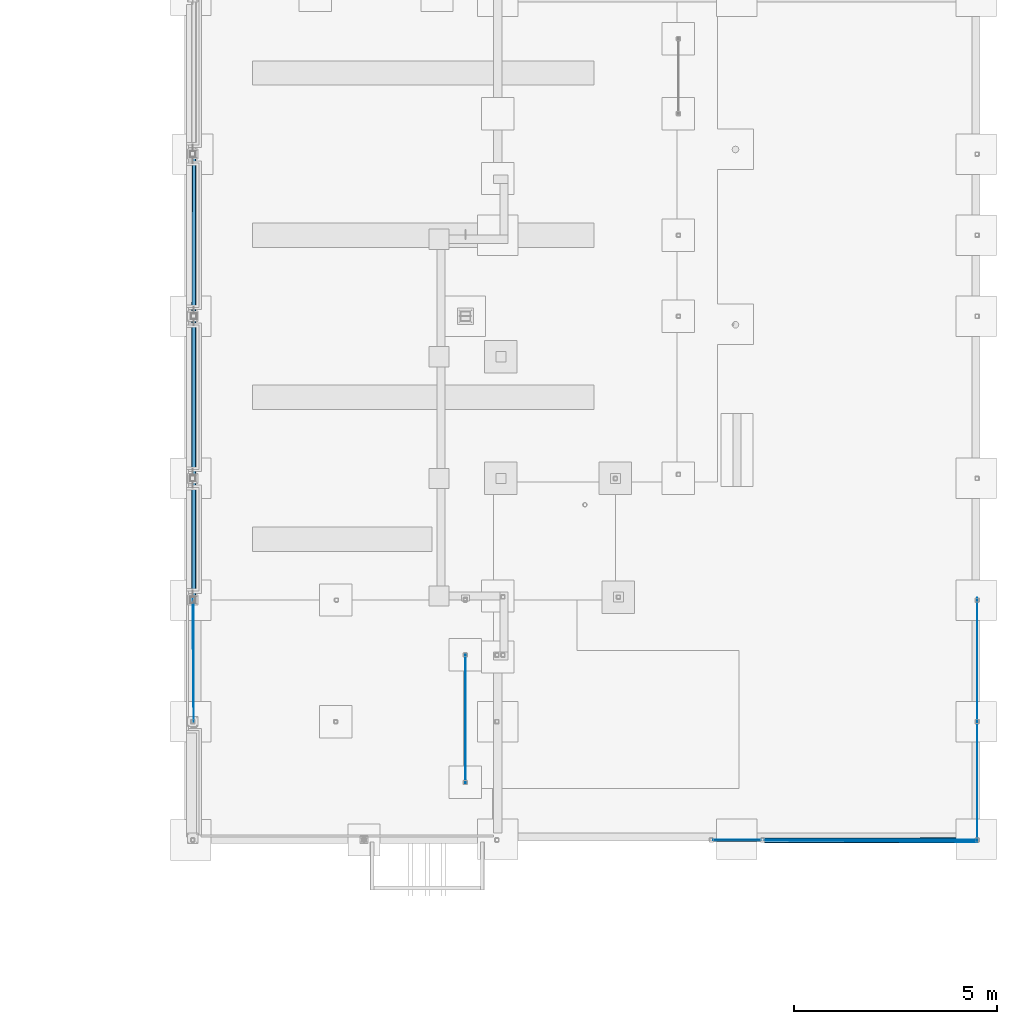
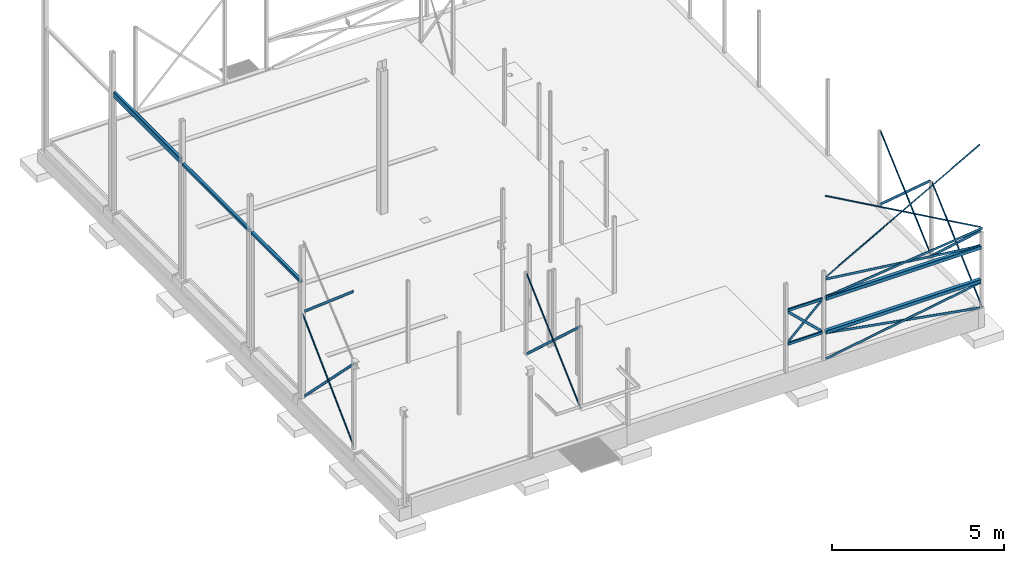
# One storey, part 7 of 18: 24 beams.
"""IFC2X3 building model written with IfcOpenShell, lengths in millimetres."""

from ifc_helpers import new_model, entity, si_unit, converted_unit, derived_unit, direction, frame, frame_2d, origin, place, context, subcontext, project, spatial, polyline, circle_curve, parameter, trimmed, segment, composite_curve, rectangle, outline, extrude, clip, halfspace, material, type_object, element, save


model = new_model("IFC2X3")

# Units and contexts
model_context = context("Model", 3, precision=0.01, world=origin(), true_north=direction((6.12303176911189e-17, 1.0)))
body_context = subcontext(model_context, "Body", "Model", "MODEL_VIEW")
ifc_project = project(units=[si_unit("LENGTHUNIT", "METRE", prefix="MILLI"), si_unit("AREAUNIT", "SQUARE_METRE"), si_unit("VOLUMEUNIT", "CUBIC_METRE"), converted_unit("PLANEANGLEUNIT", "DEGREE", entity("IfcRatioMeasure", 0.0174532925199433), si_unit("PLANEANGLEUNIT", "RADIAN"), dimensions=[0, 0, 0, 0, 0, 0, 0]), si_unit("MASSUNIT", "GRAM", prefix="KILO"), derived_unit("MASSDENSITYUNIT", [(si_unit("MASSUNIT", "GRAM", prefix="KILO"), 1), (si_unit("LENGTHUNIT", "METRE"), -3)]), si_unit("TIMEUNIT", "SECOND"), si_unit("FREQUENCYUNIT", "HERTZ"), si_unit("THERMODYNAMICTEMPERATUREUNIT", "DEGREE_CELSIUS"), derived_unit("THERMALTRANSMITTANCEUNIT", [(si_unit("MASSUNIT", "GRAM", prefix="KILO"), 1), (si_unit("THERMODYNAMICTEMPERATUREUNIT", "KELVIN"), -1), (si_unit("TIMEUNIT", "SECOND"), -3)]), derived_unit("VOLUMETRICFLOWRATEUNIT", [(si_unit("LENGTHUNIT", "METRE"), 3), (si_unit("TIMEUNIT", "SECOND"), -1)]), si_unit("ELECTRICCURRENTUNIT", "AMPERE"), si_unit("ELECTRICVOLTAGEUNIT", "VOLT"), si_unit("POWERUNIT", "WATT"), si_unit("FORCEUNIT", "NEWTON", prefix="KILO"), si_unit("ILLUMINANCEUNIT", "LUX"), si_unit("LUMINOUSFLUXUNIT", "LUMEN"), si_unit("LUMINOUSINTENSITYUNIT", "CANDELA"), derived_unit("USERDEFINED", [(si_unit("MASSUNIT", "GRAM", prefix="KILO"), -1), (si_unit("LENGTHUNIT", "METRE"), -2), (si_unit("TIMEUNIT", "SECOND"), 3), (si_unit("LUMINOUSFLUXUNIT", "LUMEN"), 1)]), derived_unit("LINEARVELOCITYUNIT", [(si_unit("LENGTHUNIT", "METRE"), 1), (si_unit("TIMEUNIT", "SECOND"), -1)]), si_unit("PRESSUREUNIT", "PASCAL"), derived_unit("USERDEFINED", [(si_unit("LENGTHUNIT", "METRE"), -2), (si_unit("MASSUNIT", "GRAM", prefix="KILO"), 1), (si_unit("TIMEUNIT", "SECOND"), -2)])], contexts=[model_context])

# Site, building, storey
site_placement = place(None, frame((0.0, 0.0, 101000.0)))
site = spatial("IfcSite", under=ifc_project, at=site_placement, Name="Default", CompositionType="ELEMENT")
building_placement = place(site_placement, origin())
building = spatial("IfcBuilding", under=site, at=building_placement, CompositionType="ELEMENT")
storey_placement = place(building_placement, origin())
storey = spatial("IfcBuildingStorey", under=building, at=storey_placement, Name="01", CompositionType="ELEMENT", Elevation=8.9295595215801e-10)

# Beams
ifc_material_1 = material(Name="S355")
beam_type_1 = type_object("IfcBeamType", Name="Bjelke HUP:HUP 100x50x5", PredefinedType="BEAM")
beam_1_placement = place(storey_placement, frame((16557.3191703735, 23487.8756540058, 1045.0)))
element("IfcBeam", 1, at=beam_1_placement, inside=storey, type_object=beam_type_1, material=ifc_material_1, Name="Bjelke HUP:HUP 100x50x5", ObjectType="Bjelke HUP:HUP 100x50x5", context=body_context, shape_type="SweptSolid", body=[
    extrude(outline(composite_curve([segment(trimmed(circle_curve(frame_2d((-15.0, -40.0), x_axis=(1.0, 0.0)), 10.0), [parameter(180.0)], [parameter(270.0)], True, "PARAMETER"), True, "CONTINUOUS"), segment(polyline([(-15.0, -50.0), (15.0, -50.0)]), True, "CONTINUOUS"), segment(trimmed(circle_curve(frame_2d((15.0, -40.0), x_axis=(1.0, 0.0)), 10.0), [parameter(270.0)], [parameter(1.01777749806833e-13)], True, "PARAMETER"), True, "CONTINUOUS"), segment(polyline([(25.0, -40.0), (25.0, 40.0)]), True, "CONTINUOUS"), segment(trimmed(circle_curve(frame_2d((15.0, 40.0), x_axis=(1.0, 0.0)), 10.0), [parameter(360.0)], [parameter(89.9999999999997)], True, "PARAMETER"), True, "CONTINUOUS"), segment(polyline([(15.0, 50.0), (-15.0, 50.0)]), True, "CONTINUOUS"), segment(trimmed(circle_curve(frame_2d((-15.0, 40.0), x_axis=(1.0, 0.0)), 10.0), [parameter(90.0000000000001)], [parameter(180.0)], True, "PARAMETER"), True, "CONTINUOUS"), segment(polyline([(-25.0, 40.0), (-25.0, -40.0)]), True, "CONTINUOUS")], self_intersect=False), holes=[composite_curve([segment(polyline([(15.0, -45.0), (-15.0, -45.0)]), True, "CONTINUOUS"), segment(trimmed(circle_curve(frame_2d((-15.0, -40.0), x_axis=(1.0, 0.0)), 5.0), [parameter(180.0)], [parameter(270.0)], True, "PARAMETER"), False, "CONTINUOUS"), segment(polyline([(-20.0, -40.0), (-20.0, 40.0)]), True, "CONTINUOUS"), segment(trimmed(circle_curve(frame_2d((-15.0, 40.0), x_axis=(1.0, 0.0)), 5.0), [parameter(90.0000000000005)], [parameter(180.0)], True, "PARAMETER"), False, "CONTINUOUS"), segment(polyline([(-15.0, 45.0), (15.0, 45.0)]), True, "CONTINUOUS"), segment(trimmed(circle_curve(frame_2d((15.0, 40.0), x_axis=(1.0, 0.0)), 5.0), [parameter(0.0)], [parameter(90.0000000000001)], True, "PARAMETER"), False, "CONTINUOUS"), segment(polyline([(20.0, 40.0), (20.0, -40.0)]), True, "CONTINUOUS"), segment(trimmed(circle_curve(frame_2d((15.0, -40.0), x_axis=(1.0, 0.0)), 5.0), [parameter(270.0)], [parameter(3.05333249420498e-13)], True, "PARAMETER"), False, "CONTINUOUS")], self_intersect=False)]), frame((47.9710376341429, 0.0, -50.0), z_axis=(1.0, 0.0, 0.0), x_axis=(0.0, -1.0, 0.0)), (0.0, 0.0, 1.0), 1161.94875565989),
])
beam_2_placement = place(storey_placement, frame((16557.3191703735, 23487.8756540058, 2235.0)))
element("IfcBeam", 2, at=beam_2_placement, inside=storey, type_object=beam_type_1, material=ifc_material_1, Name="Bjelke HUP:HUP 100x50x5", ObjectType="Bjelke HUP:HUP 100x50x5", context=body_context, shape_type="SweptSolid", body=[
    extrude(outline(composite_curve([segment(trimmed(circle_curve(frame_2d((-15.0, -40.0), x_axis=(1.0, 0.0)), 10.0), [parameter(180.0)], [parameter(270.0)], True, "PARAMETER"), True, "CONTINUOUS"), segment(polyline([(-15.0, -50.0), (15.0, -50.0)]), True, "CONTINUOUS"), segment(trimmed(circle_curve(frame_2d((15.0, -40.0), x_axis=(1.0, 0.0)), 10.0), [parameter(270.0)], [parameter(1.01777749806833e-13)], True, "PARAMETER"), True, "CONTINUOUS"), segment(polyline([(25.0, -40.0), (25.0, 40.0)]), True, "CONTINUOUS"), segment(trimmed(circle_curve(frame_2d((15.0, 40.0), x_axis=(1.0, 0.0)), 10.0), [parameter(360.0)], [parameter(89.9999999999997)], True, "PARAMETER"), True, "CONTINUOUS"), segment(polyline([(15.0, 50.0), (-15.0, 50.0)]), True, "CONTINUOUS"), segment(trimmed(circle_curve(frame_2d((-15.0, 40.0), x_axis=(1.0, 0.0)), 10.0), [parameter(90.0000000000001)], [parameter(180.0)], True, "PARAMETER"), True, "CONTINUOUS"), segment(polyline([(-25.0, 40.0), (-25.0, -40.0)]), True, "CONTINUOUS")], self_intersect=False), holes=[composite_curve([segment(polyline([(15.0, -45.0), (-15.0, -45.0)]), True, "CONTINUOUS"), segment(trimmed(circle_curve(frame_2d((-15.0, -40.0), x_axis=(1.0, 0.0)), 5.0), [parameter(180.0)], [parameter(270.0)], True, "PARAMETER"), False, "CONTINUOUS"), segment(polyline([(-20.0, -40.0), (-20.0, 40.0)]), True, "CONTINUOUS"), segment(trimmed(circle_curve(frame_2d((-15.0, 40.0), x_axis=(1.0, 0.0)), 5.0), [parameter(90.0000000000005)], [parameter(180.0)], True, "PARAMETER"), False, "CONTINUOUS"), segment(polyline([(-15.0, 45.0), (15.0, 45.0)]), True, "CONTINUOUS"), segment(trimmed(circle_curve(frame_2d((15.0, 40.0), x_axis=(1.0, 0.0)), 5.0), [parameter(0.0)], [parameter(90.0000000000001)], True, "PARAMETER"), False, "CONTINUOUS"), segment(polyline([(20.0, 40.0), (20.0, -40.0)]), True, "CONTINUOUS"), segment(trimmed(circle_curve(frame_2d((15.0, -40.0), x_axis=(1.0, 0.0)), 5.0), [parameter(270.0)], [parameter(3.05333249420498e-13)], True, "PARAMETER"), False, "CONTINUOUS")], self_intersect=False)]), frame((47.9710376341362, 0.0, -50.0), z_axis=(1.0, 0.0, 0.0), x_axis=(0.0, -1.0, 0.0)), (0.0, 0.0, 1.0), 1161.94875565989),
])
beam_type_2 = type_object("IfcBeamType", Name="Bjelke HUP:HUP 120x120x5", PredefinedType="BEAM")
beam_3_placement = place(storey_placement, frame((17805.5082167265, 23487.8756540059, 2235.0)))
element("IfcBeam", 3, at=beam_3_placement, inside=storey, type_object=beam_type_2, material=ifc_material_1, Name="Bjelke HUP:HUP 120x120x5", ObjectType="Bjelke HUP:HUP 120x120x5", context=body_context, shape_type="SweptSolid", body=[
    extrude(outline(composite_curve([segment(trimmed(circle_curve(frame_2d((-50.0, -50.0), x_axis=(1.0, 0.0)), 10.0), [parameter(180.0)], [parameter(269.999999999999)], True, "PARAMETER"), True, "CONTINUOUS"), segment(polyline([(-50.0, -60.0), (50.0, -60.0)]), True, "CONTINUOUS"), segment(trimmed(circle_curve(frame_2d((50.0, -50.0), x_axis=(1.0, 0.0)), 10.0), [parameter(270.0)], [parameter(5.08888749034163e-14)], True, "PARAMETER"), True, "CONTINUOUS"), segment(polyline([(60.0, -50.0), (60.0, 50.0)]), True, "CONTINUOUS"), segment(trimmed(circle_curve(frame_2d((50.0, 50.0), x_axis=(1.0, 0.0)), 10.0), [parameter(360.0)], [parameter(89.9999999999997)], True, "PARAMETER"), True, "CONTINUOUS"), segment(polyline([(50.0, 60.0), (-50.0, 60.0)]), True, "CONTINUOUS"), segment(trimmed(circle_curve(frame_2d((-50.0, 50.0), x_axis=(1.0, 0.0)), 10.0), [parameter(90.0000000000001)], [parameter(180.0)], True, "PARAMETER"), True, "CONTINUOUS"), segment(polyline([(-60.0, 50.0), (-60.0, -50.0)]), True, "CONTINUOUS")], self_intersect=False), holes=[composite_curve([segment(polyline([(50.0, -55.0), (-50.0, -55.0)]), True, "CONTINUOUS"), segment(trimmed(circle_curve(frame_2d((-50.0, -50.0), x_axis=(1.0, 0.0)), 5.0), [parameter(180.0)], [parameter(270.0)], True, "PARAMETER"), False, "CONTINUOUS"), segment(polyline([(-55.0, -50.0), (-55.0, 50.0)]), True, "CONTINUOUS"), segment(trimmed(circle_curve(frame_2d((-50.0, 50.0), x_axis=(1.0, 0.0)), 5.0), [parameter(90.0000000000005)], [parameter(180.0)], True, "PARAMETER"), False, "CONTINUOUS"), segment(polyline([(-50.0, 55.0), (50.0, 55.0)]), True, "CONTINUOUS"), segment(trimmed(circle_curve(frame_2d((50.0, 50.0), x_axis=(1.0, 0.0)), 5.0), [parameter(0.0)], [parameter(90.0000000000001)], True, "PARAMETER"), False, "CONTINUOUS"), segment(polyline([(55.0, 50.0), (55.0, -50.0)]), True, "CONTINUOUS"), segment(trimmed(circle_curve(frame_2d((50.0, -50.0), x_axis=(1.0, 0.0)), 5.0), [parameter(270.0)], [parameter(3.05333249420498e-13)], True, "PARAMETER"), False, "CONTINUOUS")], self_intersect=False)]), frame((61.7307469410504, 0.0, -60.0), z_axis=(1.0, 0.0, 0.0), x_axis=(0.0, -1.0, 0.0)), (0.0, 0.0, 1.0), 5194.02553270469),
])
beam_4_placement = place(storey_placement, frame((17805.5082167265, 23487.8756540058, 1045.0), z_axis=(0.0, 0.0, 1.0), x_axis=(0.999998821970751, 0.0015349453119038, 0.0)))
element("IfcBeam", 4, at=beam_4_placement, inside=storey, type_object=beam_type_2, material=ifc_material_1, Name="Bjelke HUP:HUP 120x120x5", ObjectType="Bjelke HUP:HUP 120x120x5", context=body_context, shape_type="SweptSolid", body=[
    extrude(outline(composite_curve([segment(trimmed(circle_curve(frame_2d((-50.0, -50.0), x_axis=(1.0, 0.0)), 10.0), [parameter(180.0)], [parameter(269.999999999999)], True, "PARAMETER"), True, "CONTINUOUS"), segment(polyline([(-50.0, -60.0), (50.0, -60.0)]), True, "CONTINUOUS"), segment(trimmed(circle_curve(frame_2d((50.0, -50.0), x_axis=(1.0, 0.0)), 10.0), [parameter(270.0)], [parameter(5.08888749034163e-14)], True, "PARAMETER"), True, "CONTINUOUS"), segment(polyline([(60.0, -50.0), (60.0, 50.0)]), True, "CONTINUOUS"), segment(trimmed(circle_curve(frame_2d((50.0, 50.0), x_axis=(1.0, 0.0)), 10.0), [parameter(360.0)], [parameter(89.9999999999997)], True, "PARAMETER"), True, "CONTINUOUS"), segment(polyline([(50.0, 60.0), (-50.0, 60.0)]), True, "CONTINUOUS"), segment(trimmed(circle_curve(frame_2d((-50.0, 50.0), x_axis=(1.0, 0.0)), 10.0), [parameter(90.0000000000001)], [parameter(180.0)], True, "PARAMETER"), True, "CONTINUOUS"), segment(polyline([(-60.0, 50.0), (-60.0, -50.0)]), True, "CONTINUOUS")], self_intersect=False), holes=[composite_curve([segment(polyline([(50.0, -55.0), (-50.0, -55.0)]), True, "CONTINUOUS"), segment(trimmed(circle_curve(frame_2d((-50.0, -50.0), x_axis=(1.0, 0.0)), 5.0), [parameter(180.0)], [parameter(270.0)], True, "PARAMETER"), False, "CONTINUOUS"), segment(polyline([(-55.0, -50.0), (-55.0, 50.0)]), True, "CONTINUOUS"), segment(trimmed(circle_curve(frame_2d((-50.0, 50.0), x_axis=(1.0, 0.0)), 5.0), [parameter(90.0000000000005)], [parameter(180.0)], True, "PARAMETER"), False, "CONTINUOUS"), segment(polyline([(-50.0, 55.0), (50.0, 55.0)]), True, "CONTINUOUS"), segment(trimmed(circle_curve(frame_2d((50.0, 50.0), x_axis=(1.0, 0.0)), 5.0), [parameter(0.0)], [parameter(90.0000000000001)], True, "PARAMETER"), False, "CONTINUOUS"), segment(polyline([(55.0, 50.0), (55.0, -50.0)]), True, "CONTINUOUS"), segment(trimmed(circle_curve(frame_2d((50.0, -50.0), x_axis=(1.0, 0.0)), 5.0), [parameter(270.0)], [parameter(3.05333249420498e-13)], True, "PARAMETER"), False, "CONTINUOUS")], self_intersect=False)]), frame((61.822886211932, 0.0, -60.0), z_axis=(1.0, 0.0, 0.0), x_axis=(0.0, -1.0, 0.0)), (0.0, 0.0, 1.0), 5193.86592006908),
])
ifc_material_2 = material(Name="Structural Framing Fireproofing")
beam_type_3 = type_object("IfcBeamType", Name="Bjelke Stålplate:VINDKRYSS", PredefinedType="BEAM")
beam_5_placement = place(storey_placement, frame((23111.2644969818, 23496.0197093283, 2235.0), z_axis=(0.121599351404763, 0.0, 0.992579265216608), x_axis=(-0.992579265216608, 0.0, 0.121599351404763)))
element("IfcBeam", 5, at=beam_5_placement, inside=storey, type_object=beam_type_3, material=ifc_material_2, Name="Bjelke Stålplate:VINDKRYSS", ObjectType="Bjelke Stålplate:VINDKRYSS", context=body_context, shape_type="SweptSolid", body=[
    extrude(rectangle(XDim=80.0000000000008, YDim=8.00000000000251, at=frame_2d((5.32907051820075e-13, 2.16582307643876e-12), x_axis=(1.0, 0.0))), frame((50.3738106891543, 0.0, -40.0), z_axis=(1.0, 0.0, 0.0), x_axis=(0.0, 0.0, -1.0)), (0.0, 0.0, 1.0), 5223.05650226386),
])
beam_6_placement = place(storey_placement, frame((17805.5082167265, 23496.0197093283, 2235.0), z_axis=(-0.121640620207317, 0.00110250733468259, 0.992573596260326), x_axis=(0.992532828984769, -0.00899596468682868, 0.121645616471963)))
element("IfcBeam", 6, at=beam_6_placement, inside=storey, type_object=beam_type_3, material=ifc_material_2, Name="Bjelke Stålplate:VINDKRYSS", ObjectType="Bjelke Stålplate:VINDKRYSS", context=body_context, shape_type="SweptSolid", body=[
    extrude(rectangle(XDim=80.0000000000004, YDim=8.0000000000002, at=frame_2d((-1.35003119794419e-13, 2.16582307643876e-12), x_axis=(1.0, 0.0))), frame((62.2316946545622, 0.0, -40.0), z_axis=(1.0, 0.0, 0.0), x_axis=(0.0, 0.0, -1.0)), (0.0, 0.0, 1.0), 5281.15886516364),
])
beam_7_placement = place(storey_placement, frame((23111.2644969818, 23496.0197093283, 40.0), z_axis=(0.175348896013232, 0.0, 0.984506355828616), x_axis=(-0.984506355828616, 0.0, 0.175348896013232)))
element("IfcBeam", 7, at=beam_7_placement, inside=storey, type_object=beam_type_3, material=ifc_material_2, Name="Bjelke Stålplate:VINDKRYSS", ObjectType="Bjelke Stålplate:VINDKRYSS", context=body_context, shape_type="SweptSolid", body=[
    extrude(rectangle(XDim=79.999999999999, YDim=8.00000000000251, at=frame_2d((-5.57776047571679e-13, 2.16582307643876e-12), x_axis=(1.0, 0.0))), frame((50.7868737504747, 0.0, -40.0), z_axis=(1.0, 0.0, 0.0), x_axis=(0.0, 0.0, -1.0)), (0.0, 0.0, 1.0), 5261.51770475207),
])
beam_8_placement = place(storey_placement, frame((17805.5082167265, 23496.0197093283, 40.0), z_axis=(-0.175407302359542, 0.00158982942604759, 0.984494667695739), x_axis=(0.98445423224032, -0.0089227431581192, 0.175414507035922)))
element("IfcBeam", 8, at=beam_8_placement, inside=storey, type_object=beam_type_3, material=ifc_material_2, Name="Bjelke Stålplate:VINDKRYSS", ObjectType="Bjelke Stålplate:VINDKRYSS", context=body_context, shape_type="SweptSolid", body=[
    extrude(rectangle(XDim=79.9999999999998, YDim=8.0000000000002, at=frame_2d((-1.77635683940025e-13, 2.16537898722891e-12), x_axis=(1.0, 0.0))), frame((62.7423784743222, 0.0, -40.0), z_axis=(1.0, 0.0, 0.0), x_axis=(0.0, 0.0, -1.0)), (0.0, 0.0, 1.0), 5261.71788723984),
])
beam_9_placement = place(storey_placement, frame((16557.3191703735, 23496.0196540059, 1045.0), z_axis=(-0.69003471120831, 0.0, 0.723776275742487), x_axis=(0.723776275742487, 0.0, 0.69003471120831)))
element("IfcBeam", 9, at=beam_9_placement, inside=storey, type_object=beam_type_3, material=ifc_material_2, Name="Bjelke Stålplate:VINDKRYSS", ObjectType="Bjelke Stålplate:VINDKRYSS", context=body_context, shape_type="SweptSolid", body=[
    extrude(rectangle(XDim=80.0000000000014, YDim=8.00000000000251, at=frame_2d((-4.61852778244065e-14, -2.16582307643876e-12), x_axis=(1.0, 0.0))), frame((66.2788201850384, 0.0, -40.0), z_axis=(1.0, 0.0, 0.0), x_axis=(0.0, 0.0, -1.0)), (0.0, 0.0, 1.0), 1529.12718454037),
])
beam_10_placement = place(storey_placement, frame((16557.3191703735, 23496.0196540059, 2235.0), z_axis=(0.69003471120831, 0.0, 0.723776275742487), x_axis=(0.723776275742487, 0.0, -0.69003471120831)))
element("IfcBeam", 10, at=beam_10_placement, inside=storey, type_object=beam_type_3, material=ifc_material_2, Name="Bjelke Stålplate:VINDKRYSS", ObjectType="Bjelke Stålplate:VINDKRYSS", context=body_context, shape_type="SweptSolid", body=[
    extrude(rectangle(XDim=80.0000000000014, YDim=8.00000000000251, at=frame_2d((2.57571741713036e-12, -2.16582307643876e-12), x_axis=(1.0, 0.0))), frame((142.549318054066, 0.0, -40.0), z_axis=(1.0, 0.0, 0.0), x_axis=(0.0, 0.0, -1.0)), (0.0, 0.0, 1.0), 1529.12718454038),
])
for number, where, z_axis, x_axis in (
    (11, (23111.2644969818, 23497.9507529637, 0.0), (0.0, -0.676865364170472, 0.736106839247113), (0.0, 0.736106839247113, 0.676865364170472)),
    (12, (23111.2644969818, 26417.9507529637, 0.0), (0.0, 0.676865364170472, 0.736106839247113), (0.0, -0.736106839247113, 0.676865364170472)),
):
    element("IfcBeam", number, at=place(storey_placement, frame(where, z_axis=z_axis, x_axis=x_axis)), inside=storey, type_object=beam_type_3, material=ifc_material_2, Name="Bjelke Stålplate:VINDKRYSS", ObjectType="Bjelke Stålplate:VINDKRYSS", context=body_context, shape_type="SweptSolid", body=[
        extrude(rectangle(XDim=80.0000000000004, YDim=8.00000000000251, at=frame_2d((2.27728946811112e-12, -2.16582307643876e-12), x_axis=(1.0, 0.0))), frame((0.0, 0.0, 40.0), z_axis=(1.0, 0.0, 0.0), x_axis=(0.0, 0.0, -1.0)), (0.0, 0.0, 1.0), 3930.01013143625),
    ])
beam_11_placement = place(storey_placement, frame((23111.2644969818, 26417.9507529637, 0.0), z_axis=(0.0, -0.666903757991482, 0.745143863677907), x_axis=(0.0, 0.745143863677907, 0.666903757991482)))
element("IfcBeam", 13, at=beam_11_placement, inside=storey, type_object=beam_type_3, material=ifc_material_2, Name="Bjelke Stålplate:VINDKRYSS", ObjectType="Bjelke Stålplate:VINDKRYSS", context=body_context, shape_type="SweptSolid", body=[
    extrude(rectangle(XDim=80.0000000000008, YDim=8.00000000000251, at=frame_2d((-9.2370555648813e-14, 2.16582307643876e-12), x_axis=(1.0, 0.0))), frame((0.0, 0.0, 40.0), z_axis=(1.0, 0.0, 0.0), x_axis=(0.0, 0.0, -1.0)), (0.0, 0.0, 1.0), 3988.81098805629),
])
beam_12_placement = place(storey_placement, frame((23111.2644969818, 29417.9507529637, 0.0), z_axis=(0.0, 0.666903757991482, 0.745143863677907), x_axis=(0.0, -0.745143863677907, 0.666903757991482)))
element("IfcBeam", 14, at=beam_12_placement, inside=storey, type_object=beam_type_3, material=ifc_material_2, Name="Bjelke Stålplate:VINDKRYSS", ObjectType="Bjelke Stålplate:VINDKRYSS", context=body_context, shape_type="SweptSolid", body=[
    extrude(rectangle(XDim=80.0000000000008, YDim=8.00000000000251, at=frame_2d((-9.2370555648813e-14, -2.16582307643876e-12), x_axis=(1.0, 0.0))), frame((0.0, 0.0, 40.0), z_axis=(1.0, 0.0, 0.0), x_axis=(0.0, 0.0, -1.0)), (0.0, 0.0, 1.0), 3988.81098805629),
])
beam_13_placement = place(storey_placement, frame((10486.2644969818, 28033.1441302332, -29.4646333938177), z_axis=(0.0, 0.676311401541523, 0.736615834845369), x_axis=(0.0, -0.736615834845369, 0.676311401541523)))
element("IfcBeam", 15, at=beam_13_placement, inside=storey, type_object=beam_type_3, material=ifc_material_2, Name="Bjelke Stålplate:VINDKRYSS", ObjectType="Bjelke Stålplate:VINDKRYSS", context=body_context, shape_type="SweptSolid", body=[
    extrude(rectangle(XDim=80.0000000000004, YDim=8.00000000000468, at=frame_2d((2.35189645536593e-12, -1.08268949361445e-12), x_axis=(1.0, 0.0))), frame((42.9132237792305, 0.0, 40.0), z_axis=(1.0, 0.0, 0.0), x_axis=(0.0, 0.0, -1.0)), (0.0, 0.0, 1.0), 4186.1948178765),
])
beam_14_placement = place(storey_placement, frame((10486.2644969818, 28062.9507529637, 2833.22630212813), z_axis=(0.0, -0.676311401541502, 0.736615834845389), x_axis=(0.0, -0.736615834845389, -0.676311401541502)))
element("IfcBeam", 16, at=beam_14_placement, inside=storey, type_object=beam_type_3, material=ifc_material_2, Name="Bjelke Stålplate:VINDKRYSS", ObjectType="Bjelke Stålplate:VINDKRYSS", context=body_context, shape_type="SweptSolid", body=[
    extrude(rectangle(XDim=79.9999999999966, YDim=8.00000000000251, at=frame_2d((1.98951966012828e-13, -1.08268949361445e-12), x_axis=(1.0, 0.0))), frame((-0.046935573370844, 0.0, 40.0), z_axis=(1.0, 0.0, 0.0), x_axis=(0.0, 0.0, -1.0)), (0.0, 0.0, 1.0), 4232.92489971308),
])
beam_15_placement = place(storey_placement, frame((3786.26449698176, 26515.6175177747, 97.6667648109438), z_axis=(0.99998156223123, 0.00429390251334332, 0.00429390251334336), x_axis=(-0.00607249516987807, 0.707093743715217, 0.707093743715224)))
element("IfcBeam", 17, at=beam_15_placement, inside=storey, type_object=beam_type_3, material=ifc_material_2, Name="Bjelke Stålplate:VINDKRYSS", ObjectType="Bjelke Stålplate:VINDKRYSS", context=body_context, shape_type="Clipping", body=[
    clip(extrude(rectangle(XDim=79.9999999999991, YDim=8.00000000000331, at=frame_2d((2.66453525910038e-15, -2.18953744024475e-11), x_axis=(0.0, 1.0))), frame((-79.1524633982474, 0.0, 0.0), z_axis=(1.0, 0.0, 0.0), x_axis=(0.0, 0.0, -1.0)), (0.0, 0.0, 1.0), 4178.27154612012), halfspace(frame((-279.179588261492, -240.416305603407, -60.6964358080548), z_axis=(-0.707093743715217, 0.707106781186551, -0.00429390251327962), x_axis=(0.707093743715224, 0.707106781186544, 0.00429390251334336)), False)),
])
beam_16_placement = place(storey_placement, frame((3786.26449698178, 29417.9507529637, 3017.49999999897), z_axis=(0.0, 0.649485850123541, 0.760373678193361), x_axis=(0.0, -0.760373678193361, 0.649485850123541)))
element("IfcBeam", 18, at=beam_16_placement, inside=storey, type_object=beam_type_3, material=ifc_material_2, Name="Bjelke Stålplate:VINDKRYSS", ObjectType="Bjelke Stålplate:VINDKRYSS", context=body_context, shape_type="Clipping", body=[
    clip(clip(extrude(rectangle(XDim=80.0000000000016, YDim=8.0000000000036, at=frame_2d((2.06057393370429e-13, 0.0), x_axis=(1.0, 0.0))), frame((90.7719033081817, 0.0, 0.0), z_axis=(1.0, 0.0, 0.0), x_axis=(0.0, 0.0, -1.0)), (0.0, 0.0, 1.0), 3796.76328995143), halfspace(frame((2300.96203524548, -59.0, -1817.4515020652), z_axis=(0.760373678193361, 0.0, -0.649485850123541), x_axis=(0.649485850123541, 0.0, 0.760373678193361)), False)), halfspace(frame((-2062.9492328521, 34.0, -2561.42962282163), z_axis=(-0.760373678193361, 0.0, 0.649485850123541), x_axis=(0.649485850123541, 0.0, 0.760373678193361)), False)),
])
beam_17_placement = place(storey_placement, frame((3786.26449698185, 29422.287728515, -4.35886472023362), z_axis=(1.0, 0.0, 0.0), x_axis=(0.0, -0.705324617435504, 0.708884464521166)))
element("IfcBeam", 19, at=beam_17_placement, inside=storey, type_object=beam_type_3, material=ifc_material_2, Name="Bjelke Stålplate:VINDKRYSS", ObjectType="Bjelke Stålplate:VINDKRYSS", context=body_context, shape_type="Clipping", body=[
    clip(extrude(rectangle(XDim=80.0, YDim=8.0000000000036, at=frame_2d((0.0, -2.33058017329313e-12), x_axis=(0.0, 1.0))), frame((100.63677803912, 0.0, 0.0), z_axis=(1.0, 0.0, 0.0), x_axis=(0.0, 0.0, -1.0)), (0.0, 0.0, 1.0), 4117.51099579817), halfspace(frame((-118.244059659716, 257.781670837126, 34.0), z_axis=(-0.705324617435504, -0.708884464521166, 0.0), x_axis=(0.708884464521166, -0.705324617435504, 0.0)), False)),
])
beam_type_4 = type_object("IfcBeamType", Name="Bjelke Stålplate:40x5 mm", PredefinedType="BEAM")
beam_18_placement = place(storey_placement, frame((17805.5082167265, 23496.0197093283, 2885.0), z_axis=(-0.487823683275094, 0.0, 0.872942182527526), x_axis=(0.872942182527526, 0.0, 0.487823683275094)))
element("IfcBeam", 20, at=beam_18_placement, inside=storey, type_object=beam_type_4, material=ifc_material_2, Name="Bjelke Stålplate:40x5 mm", ObjectType="Bjelke Stålplate:40x5 mm", context=body_context, shape_type="SweptSolid", body=[
    extrude(rectangle(XDim=39.9999999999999, YDim=5.00000000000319, at=frame_2d((0.0, 2.16582307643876e-12), x_axis=(1.0, 0.0))), frame((70.7157337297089, 0.0, -20.0), z_axis=(1.0, 0.0, 0.0), x_axis=(0.0, 0.0, -1.0)), (0.0, 0.0, 1.0), 5927.66931138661),
])
beam_19_placement = place(storey_placement, frame((23108.9988346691, 23447.9507559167, 2885.0), z_axis=(0.487947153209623, -0.00442257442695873, 0.87286196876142), x_axis=(-0.872826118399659, 0.00791097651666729, 0.487967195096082)))
element("IfcBeam", 21, at=beam_19_placement, inside=storey, type_object=beam_type_4, material=ifc_material_2, Name="Bjelke Stålplate:40x5 mm", ObjectType="Bjelke Stålplate:40x5 mm", context=body_context, shape_type="SweptSolid", body=[
    extrude(rectangle(XDim=39.9999999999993, YDim=5.00000000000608, at=frame_2d((-7.30082660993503e-13, 4.33120206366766e-12), x_axis=(1.0, 0.0))), frame((54.6648711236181, 0.0, -20.0), z_axis=(1.0, 0.0, 0.0), x_axis=(0.0, 0.0, -1.0)), (0.0, 0.0, 1.0), 5928.45045577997),
])
beam_type_5 = type_object("IfcBeamType", Name="Bjelke HUP:HUP 200x100x8", PredefinedType="BEAM")
beam_20_placement = place(storey_placement, frame((3791.98233689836, 40342.9507529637, 4000.0), z_axis=(0.0, 0.0, 1.0), x_axis=(-0.00147556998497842, -0.999998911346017, 0.0)))
element("IfcBeam", 22, at=beam_20_placement, inside=storey, type_object=beam_type_5, material=ifc_material_1, Name="Bjelke HUP:HUP 200x100x8", ObjectType="Bjelke HUP:HUP 200x100x8", context=body_context, shape_type="SweptSolid", body=[
    extrude(outline(composite_curve([segment(trimmed(circle_curve(frame_2d((-34.0, -84.0), x_axis=(1.0, 0.0)), 16.0), [parameter(180.0)], [parameter(270.0)], True, "PARAMETER"), True, "CONTINUOUS"), segment(polyline([(-34.0, -100.0), (34.0, -100.0)]), True, "CONTINUOUS"), segment(trimmed(circle_curve(frame_2d((34.0, -84.0), x_axis=(1.0, 0.0)), 16.0), [parameter(270.0)], [parameter(1.01777749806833e-13)], True, "PARAMETER"), True, "CONTINUOUS"), segment(polyline([(50.0, -84.0), (50.0, 84.0)]), True, "CONTINUOUS"), segment(trimmed(circle_curve(frame_2d((34.0, 84.0), x_axis=(1.0, 0.0)), 16.0), [parameter(360.0)], [parameter(89.9999999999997)], True, "PARAMETER"), True, "CONTINUOUS"), segment(polyline([(34.0, 100.0), (-34.0, 100.0)]), True, "CONTINUOUS"), segment(trimmed(circle_curve(frame_2d((-34.0, 84.0), x_axis=(1.0, 0.0)), 16.0), [parameter(90.0000000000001)], [parameter(180.0)], True, "PARAMETER"), True, "CONTINUOUS"), segment(polyline([(-50.0, 84.0), (-50.0, -84.0)]), True, "CONTINUOUS")], self_intersect=False), holes=[composite_curve([segment(polyline([(34.0, -92.0), (-34.0, -92.0)]), True, "CONTINUOUS"), segment(trimmed(circle_curve(frame_2d((-34.0, -84.0), x_axis=(1.0, 0.0)), 8.0), [parameter(180.0)], [parameter(270.0)], True, "PARAMETER"), False, "CONTINUOUS"), segment(polyline([(-42.0, -84.0), (-42.0, 84.0)]), True, "CONTINUOUS"), segment(trimmed(circle_curve(frame_2d((-34.0, 84.0), x_axis=(1.0, 0.0)), 8.0), [parameter(90.0000000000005)], [parameter(180.0)], True, "PARAMETER"), False, "CONTINUOUS"), segment(polyline([(-34.0, 92.0), (34.0, 92.0)]), True, "CONTINUOUS"), segment(trimmed(circle_curve(frame_2d((34.0, 84.0), x_axis=(1.0, 0.0)), 8.0), [parameter(0.0)], [parameter(90.0000000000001)], True, "PARAMETER"), False, "CONTINUOUS"), segment(polyline([(42.0, 84.0), (42.0, -84.0)]), True, "CONTINUOUS"), segment(trimmed(circle_curve(frame_2d((34.0, -84.0), x_axis=(1.0, 0.0)), 8.0), [parameter(270.0)], [parameter(3.56222124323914e-13)], True, "PARAMETER"), False, "CONTINUOUS")], self_intersect=False)]), frame((0.0, 0.0, 100.0), z_axis=(1.0, 0.0, 0.0), x_axis=(0.0, -1.0, 0.0)), (0.0, 0.0, 1.0), 3850.00419132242),
])
beam_type_6 = type_object("IfcBeamType", Name="Bjelke HUP:HUP 100x100x5", PredefinedType="BEAM")
beam_21_placement = place(storey_placement, frame((3786.26449698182, 36342.9507529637, 4000.0), z_axis=(0.0, 0.0, 1.0), x_axis=(0.0, -1.0, 0.0)))
element("IfcBeam", 23, at=beam_21_placement, inside=storey, type_object=beam_type_6, material=ifc_material_1, Name="Bjelke HUP:HUP 100x100x5", ObjectType="Bjelke HUP:HUP 100x100x5", context=body_context, shape_type="SweptSolid", body=[
    extrude(outline(composite_curve([segment(trimmed(circle_curve(frame_2d((-40.0, -40.0), x_axis=(1.0, 0.0)), 10.0), [parameter(180.0)], [parameter(269.999999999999)], True, "PARAMETER"), True, "CONTINUOUS"), segment(polyline([(-40.0, -50.0), (40.0, -50.0)]), True, "CONTINUOUS"), segment(trimmed(circle_curve(frame_2d((40.0, -40.0), x_axis=(1.0, 0.0)), 10.0), [parameter(270.0)], [parameter(5.08888749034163e-14)], True, "PARAMETER"), True, "CONTINUOUS"), segment(polyline([(50.0, -40.0), (50.0, 40.0)]), True, "CONTINUOUS"), segment(trimmed(circle_curve(frame_2d((40.0, 40.0), x_axis=(1.0, 0.0)), 10.0), [parameter(360.0)], [parameter(89.9999999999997)], True, "PARAMETER"), True, "CONTINUOUS"), segment(polyline([(40.0, 50.0), (-40.0, 50.0)]), True, "CONTINUOUS"), segment(trimmed(circle_curve(frame_2d((-40.0, 40.0), x_axis=(1.0, 0.0)), 10.0), [parameter(90.0000000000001)], [parameter(180.0)], True, "PARAMETER"), True, "CONTINUOUS"), segment(polyline([(-50.0, 40.0), (-50.0, -40.0)]), True, "CONTINUOUS")], self_intersect=False), holes=[composite_curve([segment(polyline([(40.0, -45.0), (-40.0, -45.0)]), True, "CONTINUOUS"), segment(trimmed(circle_curve(frame_2d((-40.0, -40.0), x_axis=(1.0, 0.0)), 5.0), [parameter(180.0)], [parameter(270.0)], True, "PARAMETER"), False, "CONTINUOUS"), segment(polyline([(-45.0, -40.0), (-45.0, 40.0)]), True, "CONTINUOUS"), segment(trimmed(circle_curve(frame_2d((-40.0, 40.0), x_axis=(1.0, 0.0)), 5.0), [parameter(90.0000000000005)], [parameter(180.0)], True, "PARAMETER"), False, "CONTINUOUS"), segment(polyline([(-40.0, 45.0), (40.0, 45.0)]), True, "CONTINUOUS"), segment(trimmed(circle_curve(frame_2d((40.0, 40.0), x_axis=(1.0, 0.0)), 5.0), [parameter(0.0)], [parameter(90.0000000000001)], True, "PARAMETER"), False, "CONTINUOUS"), segment(polyline([(45.0, 40.0), (45.0, -40.0)]), True, "CONTINUOUS"), segment(trimmed(circle_curve(frame_2d((40.0, -40.0), x_axis=(1.0, 0.0)), 5.0), [parameter(270.0)], [parameter(5.08888749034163e-13)], True, "PARAMETER"), False, "CONTINUOUS")], self_intersect=False)]), frame((0.0, 0.0, 50.0), z_axis=(1.0, 0.0, 0.0), x_axis=(0.0, -1.0, 0.0)), (0.0, 0.0, 1.0), 3849.99999999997),
])
beam_22_placement = place(storey_placement, frame((3786.26449698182, 32342.9507529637, 4000.0), z_axis=(0.0, 0.0, 1.0), x_axis=(0.0, -1.0, 0.0)))
element("IfcBeam", 24, at=beam_22_placement, inside=storey, type_object=beam_type_6, material=ifc_material_1, Name="Bjelke HUP:HUP 100x100x5", ObjectType="Bjelke HUP:HUP 100x100x5", context=body_context, shape_type="SweptSolid", body=[
    extrude(outline(composite_curve([segment(trimmed(circle_curve(frame_2d((-40.0, -40.0), x_axis=(1.0, 0.0)), 10.0), [parameter(180.0)], [parameter(269.999999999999)], True, "PARAMETER"), True, "CONTINUOUS"), segment(polyline([(-40.0, -50.0), (40.0, -50.0)]), True, "CONTINUOUS"), segment(trimmed(circle_curve(frame_2d((40.0, -40.0), x_axis=(1.0, 0.0)), 10.0), [parameter(270.0)], [parameter(5.08888749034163e-14)], True, "PARAMETER"), True, "CONTINUOUS"), segment(polyline([(50.0, -40.0), (50.0, 40.0)]), True, "CONTINUOUS"), segment(trimmed(circle_curve(frame_2d((40.0, 40.0), x_axis=(1.0, 0.0)), 10.0), [parameter(360.0)], [parameter(89.9999999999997)], True, "PARAMETER"), True, "CONTINUOUS"), segment(polyline([(40.0, 50.0), (-40.0, 50.0)]), True, "CONTINUOUS"), segment(trimmed(circle_curve(frame_2d((-40.0, 40.0), x_axis=(1.0, 0.0)), 10.0), [parameter(90.0000000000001)], [parameter(180.0)], True, "PARAMETER"), True, "CONTINUOUS"), segment(polyline([(-50.0, 40.0), (-50.0, -40.0)]), True, "CONTINUOUS")], self_intersect=False), holes=[composite_curve([segment(polyline([(40.0, -45.0), (-40.0, -45.0)]), True, "CONTINUOUS"), segment(trimmed(circle_curve(frame_2d((-40.0, -40.0), x_axis=(1.0, 0.0)), 5.0), [parameter(180.0)], [parameter(270.0)], True, "PARAMETER"), False, "CONTINUOUS"), segment(polyline([(-45.0, -40.0), (-45.0, 40.0)]), True, "CONTINUOUS"), segment(trimmed(circle_curve(frame_2d((-40.0, 40.0), x_axis=(1.0, 0.0)), 5.0), [parameter(90.0000000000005)], [parameter(180.0)], True, "PARAMETER"), False, "CONTINUOUS"), segment(polyline([(-40.0, 45.0), (40.0, 45.0)]), True, "CONTINUOUS"), segment(trimmed(circle_curve(frame_2d((40.0, 40.0), x_axis=(1.0, 0.0)), 5.0), [parameter(0.0)], [parameter(90.0000000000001)], True, "PARAMETER"), False, "CONTINUOUS"), segment(polyline([(45.0, 40.0), (45.0, -40.0)]), True, "CONTINUOUS"), segment(trimmed(circle_curve(frame_2d((40.0, -40.0), x_axis=(1.0, 0.0)), 5.0), [parameter(270.0)], [parameter(5.08888749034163e-13)], True, "PARAMETER"), False, "CONTINUOUS")], self_intersect=False)]), frame((0.0, 0.0, 50.0), z_axis=(1.0, 0.0, 0.0), x_axis=(0.0, -1.0, 0.0)), (0.0, 0.0, 1.0), 2849.99999999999),
])

save(model, "model.ifc")
